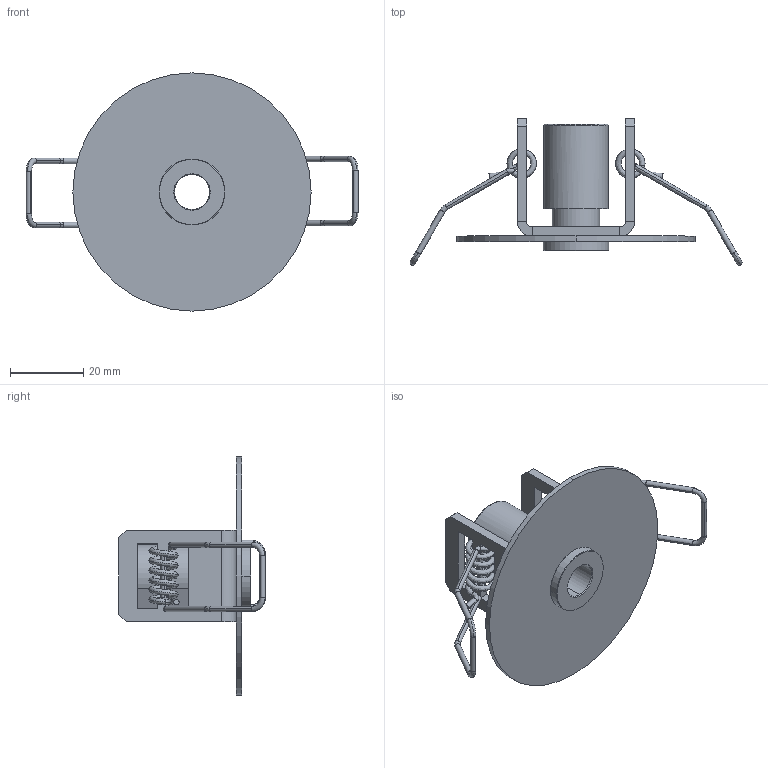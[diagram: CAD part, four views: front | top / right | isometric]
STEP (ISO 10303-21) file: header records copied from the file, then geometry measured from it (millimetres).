
FILE_DESCRIPTION (( 'STEP AP203' ), '1' );
FILE_NAME ('ACCANOPYIN001BC-PER 3D.STEP', '2024-05-28T16:47:21', ( '' ), ( '' ), 'SwSTEP 2.0', 'SolidWorks 2024', '' );
FILE_SCHEMA (( 'CONFIG_CONTROL_DESIGN' ));
Length unit declared in the file: millimetre
Products named in the file (6): WSCM2C0033-0128-01; WSCM2C0050-0128-00; AX27-DL-1-04; WSA5127-2-6-0-----_WSA5127-2-6-0-----; ACCANOPYIN001BC-PER 3D; WSCM2A0021-0728-00
Assembly tree (6 placements, depth 2):
  ACCANOPYIN001BC-PER 3D
    WSCM2C0033-0128-01
    WSCM2C0050-0128-00
    WSCM2A0021-0728-00
    WSA5127-2-6-0-----_WSA5127-2-6-0-----
    AX27-DL-1-04  x2
Bounding box: 90.6 x 39.95 x 65 mm (x, y, z)
Volume: 14108.6 mm3; surface area: 17534.3 mm2
Topology: 6 solids, 6 shells, 230 faces, 563 edges, 344 vertices
Faces by surface type: plane 97, cylinder 65, bspline 26, torus 24, cone 12, sphere 6
Entity records: 10612 total; most frequent: CARTESIAN_POINT 5342, DIRECTION 960, ORIENTED_EDGE 958, EDGE_CURVE 479, AXIS2_PLACEMENT_3D 334, VERTEX_POINT 296, VECTOR 292, LINE 292
